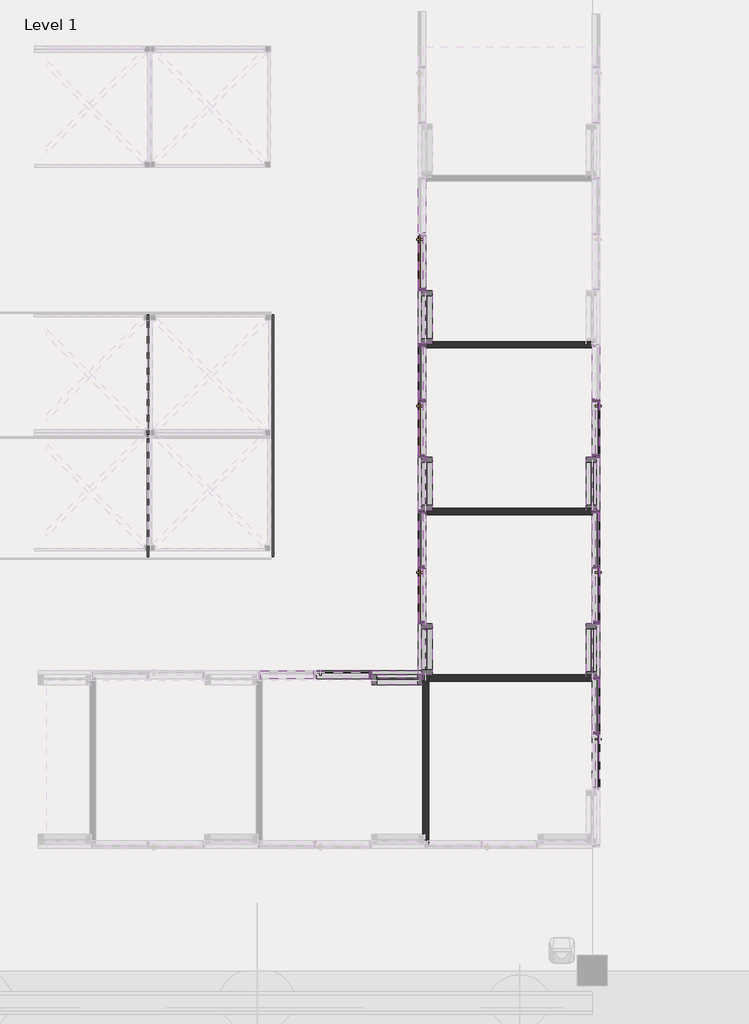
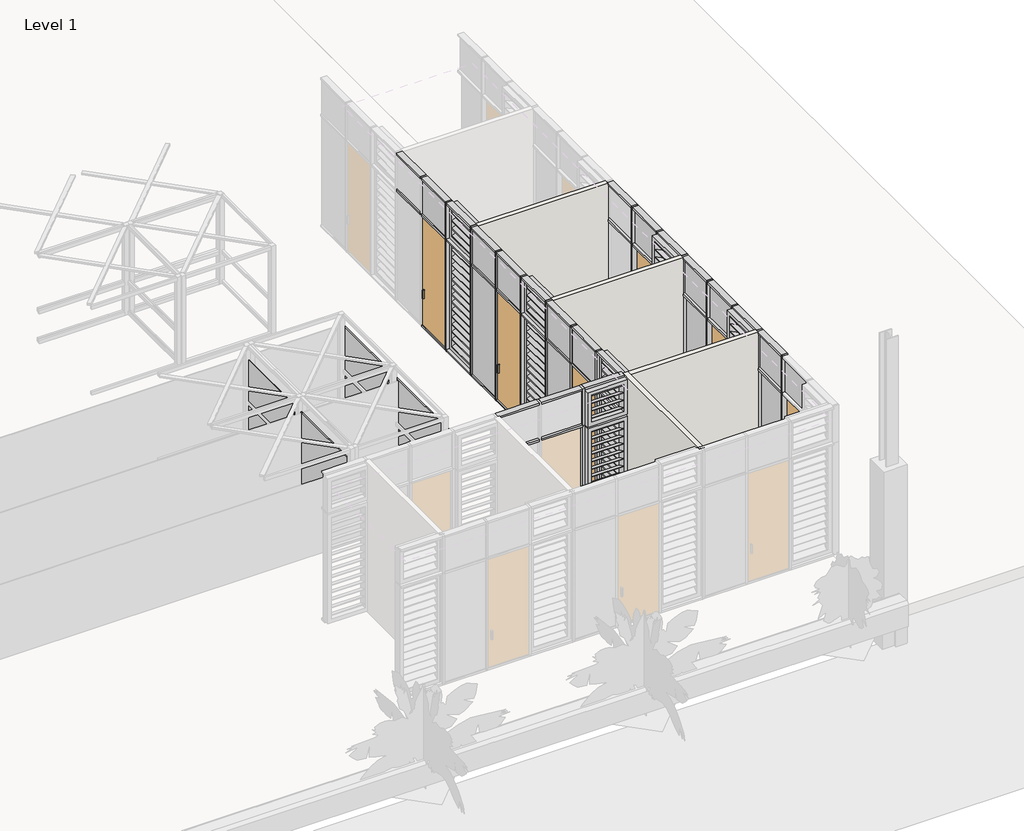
# One storey, part 8 of 32: 85 members, 28 plates, 6 doors, 4 walls.
"""IFC4 building model written with IfcOpenShell, lengths in millimetres."""

from ifc_helpers import new_model, si_unit, frame, origin, place, context, project, spatial, polyline, outline, extrude, faceted_brep, transform, mapped, element, save
from components import curtain_wall_door_single_glass_nz_curtain_wall_door_single_2bf20aac, curtain_wall_door_single_glass_nz_curtain_wall_door_single_ff8afd41, rectangular_mullion_50x150mm_c4504768, rectangular_mullion_50x150mm_6c7cb899, rectangular_mullion_50x150mm_b0af8bb0, rectangular_mullion_50x150mm_bbc1c4ea, rectangular_mullion_50x150mm_1a36453b, rectangular_mullion_50x150mm_0d540e17, rectangular_mullion_50x150mm_108cdc6f, rectangular_mullion_50x150mm_375c3673, rectangular_mullion_50x150mm_9239b3be, curtain_wall_panel_louver_20805_curtain_wall_panel_louver_4af505d4, curtain_wall_panel_louver_20805_curtain_wall_panel_louver_14332c5b, curtain_wall_panel_louver_20805_curtain_wall_panel_louver_d3fb298f, curtain_wall_panel_louver_20805_curtain_wall_panel_louver_ac1eef51, curtain_wall_panel_glass_louver_20805_curtain_wall_panel_036772b2, curtain_wall_panel_glass_louver_20805_curtain_wall_panel_0f8e40a1, curtain_wall_panel_glass_louver_20805_curtain_wall_panel_1d079b44, curtain_wall_panel_glass_louver_20805_curtain_wall_panel_de26d37e, system_panel_glazed_3e853062, system_panel_glazed_29269e8f, system_panel_glazed_a5e8ce8b, system_panel_glazed_53fe5bbb, system_panel_solid_585523e5, system_panel_solid_10c0fb46

model = new_model("IFC4")

# Units and contexts
model_context = context("Model", 3, world=origin())
ifc_project = project(units=[si_unit("LENGTHUNIT", "METRE", prefix="MILLI")], contexts=[model_context])

# Site, building, storey
site = spatial("IfcSite", under=ifc_project)
building = spatial("IfcBuilding", under=site)
storey = spatial("IfcBuildingStorey", under=building, Name="Level 1", Elevation=2800.0)

# Doors
placement = place(None, origin())
curtain_wall_door_single_glass_nz_curtain_wall_door_single_shape = curtain_wall_door_single_glass_nz_curtain_wall_door_single_2bf20aac(model_context)
element("IfcDoor", 1, ObjectType="Curtain Wall Door-Single-Glass (NZ) : Curtain Wall Door-Single-Glass (NZ)", at=placement, inside=storey, context=model_context, shape_type="MappedRepresentation", body=[
    mapped(curtain_wall_door_single_glass_nz_curtain_wall_door_single_shape, transform((-55155.3056755, -25055.9199597, 2850.0), x_axis=(0.0, -1.0, 0.0), y_axis=(1.0, 0.0, 0.0), z_axis=(0.0, 0.0, 1.0))),
])
element("IfcDoor", 2, ObjectType="Curtain Wall Door-Single-Glass (NZ) : Curtain Wall Door-Single-Glass (NZ)", at=placement, inside=storey, context=model_context, shape_type="MappedRepresentation", body=[
    mapped(curtain_wall_door_single_glass_nz_curtain_wall_door_single_shape, transform((-55155.3056755, -28355.9199596, 2850.0), x_axis=(0.0, -1.0, 0.0), y_axis=(1.0, 0.0, 0.0), z_axis=(0.0, 0.0, 1.0))),
])
element("IfcDoor", 3, ObjectType="Curtain Wall Door-Single-Glass (NZ) : Curtain Wall Door-Single-Glass (NZ)", at=placement, inside=storey, context=model_context, shape_type="MappedRepresentation", body=[
    mapped(curtain_wall_door_single_glass_nz_curtain_wall_door_single_shape, transform((-55155.3056755, -31655.9199597, 2850.0), x_axis=(0.0, -1.0, 0.0), y_axis=(1.0, 0.0, 0.0), z_axis=(0.0, 0.0, 1.0))),
])
curtain_wall_door_single_glass_nz_curtain_wall_door_single_2_shape = curtain_wall_door_single_glass_nz_curtain_wall_door_single_ff8afd41(model_context)
element("IfcDoor", 4, ObjectType="Curtain Wall Door-Single-Glass (NZ) : Curtain Wall Door-Single-Glass (NZ)", at=placement, inside=storey, context=model_context, shape_type="MappedRepresentation", body=[
    mapped(curtain_wall_door_single_glass_nz_curtain_wall_door_single_2_shape, transform((-58605.3056755, -25055.9199597, 2850.0), x_axis=(0.0, -1.0, 0.0), y_axis=(1.0, 0.0, 0.0), z_axis=(0.0, 0.0, 1.0))),
])
element("IfcDoor", 5, ObjectType="Curtain Wall Door-Single-Glass (NZ) : Curtain Wall Door-Single-Glass (NZ)", at=placement, inside=storey, context=model_context, shape_type="MappedRepresentation", body=[
    mapped(curtain_wall_door_single_glass_nz_curtain_wall_door_single_2_shape, transform((-58605.3056755, -21755.9199596, 2850.0), x_axis=(0.0, -1.0, 0.0), y_axis=(1.0, 0.0, 0.0), z_axis=(0.0, 0.0, 1.0))),
])
element("IfcDoor", 6, ObjectType="Curtain Wall Door-Single-Glass (NZ) : Curtain Wall Door-Single-Glass (NZ)", at=placement, inside=storey, context=model_context, shape_type="MappedRepresentation", body=[
    mapped(curtain_wall_door_single_glass_nz_curtain_wall_door_single_2_shape, transform((-58605.3056755, -28355.9199596, 2850.0), x_axis=(0.0, -1.0, 0.0), y_axis=(1.0, 0.0, 0.0), z_axis=(0.0, 0.0, 1.0))),
])

# Members
rectangular_mullion_50x150mm_shape = rectangular_mullion_50x150mm_c4504768(model_context)
element("IfcMember", 7, ObjectType="Rectangular Mullion : 50x150mm", at=placement, inside=storey, context=model_context, shape_type="MappedRepresentation", body=[
    mapped(rectangular_mullion_50x150mm_shape, transform((-60755.3056755, -29943.4199596, 5800.0), x_axis=(0.0, 0.0, 1.0), y_axis=(0.0, -1.0, 0.0), z_axis=(1.0, 0.0, 0.0))),
])
element("IfcMember", 8, ObjectType="Rectangular Mullion : 50x150mm", at=placement, inside=storey, context=model_context, shape_type="MappedRepresentation", body=[
    mapped(rectangular_mullion_50x150mm_shape, transform((-59655.3056756, -29943.4199596, 5800.0), x_axis=(0.0, 0.0, 1.0), y_axis=(0.0, -1.0, 0.0), z_axis=(1.0, 0.0, 0.0))),
])
element("IfcMember", 9, ObjectType="Rectangular Mullion : 50x150mm", at=placement, inside=storey, context=model_context, shape_type="MappedRepresentation", body=[
    mapped(rectangular_mullion_50x150mm_shape, transform((-55155.3056755, -24480.9199597, 5800.0), x_axis=(0.0, 0.0, 1.0), y_axis=(-1.0, 0.0, 0.0), z_axis=(0.0, -1.0, 0.0))),
])
element("IfcMember", 10, ObjectType="Rectangular Mullion : 50x150mm", at=placement, inside=storey, context=model_context, shape_type="MappedRepresentation", body=[
    mapped(rectangular_mullion_50x150mm_shape, transform((-55155.3056755, -29980.9199596, 5800.0), x_axis=(0.0, 0.0, 1.0), y_axis=(-1.0, 0.0, 0.0), z_axis=(0.0, -1.0, 0.0))),
])
element("IfcMember", 11, ObjectType="Rectangular Mullion : 50x150mm", at=placement, inside=storey, context=model_context, shape_type="MappedRepresentation", body=[
    mapped(rectangular_mullion_50x150mm_shape, transform((-55155.3056755, -27780.9199596, 5800.0), x_axis=(0.0, 0.0, 1.0), y_axis=(-1.0, 0.0, 0.0), z_axis=(0.0, -1.0, 0.0))),
])
element("IfcMember", 12, ObjectType="Rectangular Mullion : 50x150mm", at=placement, inside=storey, context=model_context, shape_type="MappedRepresentation", body=[
    mapped(rectangular_mullion_50x150mm_shape, transform((-55155.3056755, -26680.9199596, 5800.0), x_axis=(0.0, 0.0, 1.0), y_axis=(-1.0, 0.0, 0.0), z_axis=(0.0, -1.0, 0.0))),
])
element("IfcMember", 13, ObjectType="Rectangular Mullion : 50x150mm", at=placement, inside=storey, context=model_context, shape_type="MappedRepresentation", body=[
    mapped(rectangular_mullion_50x150mm_shape, transform((-55155.3056755, -25580.9199596, 5800.0), x_axis=(0.0, 0.0, 1.0), y_axis=(-1.0, 0.0, 0.0), z_axis=(0.0, -1.0, 0.0))),
])
element("IfcMember", 14, ObjectType="Rectangular Mullion : 50x150mm", at=placement, inside=storey, context=model_context, shape_type="MappedRepresentation", body=[
    mapped(rectangular_mullion_50x150mm_shape, transform((-55155.3056755, -28880.9199596, 5800.0), x_axis=(0.0, 0.0, 1.0), y_axis=(-1.0, 0.0, 0.0), z_axis=(0.0, -1.0, 0.0))),
])
rectangular_mullion_50x150mm_2_shape = rectangular_mullion_50x150mm_6c7cb899(model_context)
element("IfcMember", 15, ObjectType="Rectangular Mullion : 50x150mm", at=placement, inside=storey, context=model_context, shape_type="MappedRepresentation", body=[
    mapped(rectangular_mullion_50x150mm_2_shape, transform((-59630.3056756, -29943.4199596, 2800.0), x_axis=(1.0, 0.0, 0.0), y_axis=(0.0, -1.0, 0.0), z_axis=(0.0, 0.0, -1.0))),
])
element("IfcMember", 16, ObjectType="Rectangular Mullion : 50x150mm", at=placement, inside=storey, context=model_context, shape_type="MappedRepresentation", body=[
    mapped(rectangular_mullion_50x150mm_2_shape, transform((-55155.3056755, -24505.9199597, 2800.0), x_axis=(0.0, -1.0, 0.0), y_axis=(-1.0, 0.0, 0.0), z_axis=(0.0, 0.0, -1.0))),
])
element("IfcMember", 17, ObjectType="Rectangular Mullion : 50x150mm", at=placement, inside=storey, context=model_context, shape_type="MappedRepresentation", body=[
    mapped(rectangular_mullion_50x150mm_2_shape, transform((-55155.3056755, -25605.9199596, 2800.0), x_axis=(0.0, -1.0, 0.0), y_axis=(-1.0, 0.0, 0.0), z_axis=(0.0, 0.0, -1.0))),
])
element("IfcMember", 18, ObjectType="Rectangular Mullion : 50x150mm", at=placement, inside=storey, context=model_context, shape_type="MappedRepresentation", body=[
    mapped(rectangular_mullion_50x150mm_2_shape, transform((-55155.3056755, -26705.9199596, 2800.0), x_axis=(0.0, -1.0, 0.0), y_axis=(-1.0, 0.0, 0.0), z_axis=(0.0, 0.0, -1.0))),
])
element("IfcMember", 19, ObjectType="Rectangular Mullion : 50x150mm", at=placement, inside=storey, context=model_context, shape_type="MappedRepresentation", body=[
    mapped(rectangular_mullion_50x150mm_2_shape, transform((-55155.3056755, -27805.9199596, 2800.0), x_axis=(0.0, -1.0, 0.0), y_axis=(-1.0, 0.0, 0.0), z_axis=(0.0, 0.0, -1.0))),
])
element("IfcMember", 20, ObjectType="Rectangular Mullion : 50x150mm", at=placement, inside=storey, context=model_context, shape_type="MappedRepresentation", body=[
    mapped(rectangular_mullion_50x150mm_2_shape, transform((-55155.3056755, -28905.9199596, 2800.0), x_axis=(0.0, -1.0, 0.0), y_axis=(-1.0, 0.0, 0.0), z_axis=(0.0, 0.0, -1.0))),
])
rectangular_mullion_50x150mm_3_shape = rectangular_mullion_50x150mm_b0af8bb0(model_context)
element("IfcMember", 21, ObjectType="Rectangular Mullion : 50x150mm", at=placement, inside=storey, context=model_context, shape_type="MappedRepresentation", body=[
    mapped(rectangular_mullion_50x150mm_3_shape, transform((-60705.3056755, -29943.4199596, 2800.0), x_axis=(0.0, 0.0, -1.0), y_axis=(0.0, -1.0, 0.0), z_axis=(-1.0, 0.0, 0.0))),
])
element("IfcMember", 22, ObjectType="Rectangular Mullion : 50x150mm", at=placement, inside=storey, context=model_context, shape_type="MappedRepresentation", body=[
    mapped(rectangular_mullion_50x150mm_3_shape, transform((-55155.3056755, -28930.9199596, 2800.0), x_axis=(0.0, 0.0, -1.0), y_axis=(-1.0, 0.0, 0.0), z_axis=(0.0, 1.0, 0.0))),
])
element("IfcMember", 23, ObjectType="Rectangular Mullion : 50x150mm", at=placement, inside=storey, context=model_context, shape_type="MappedRepresentation", body=[
    mapped(rectangular_mullion_50x150mm_3_shape, transform((-55155.3056755, -26730.9199596, 2800.0), x_axis=(0.0, 0.0, -1.0), y_axis=(-1.0, 0.0, 0.0), z_axis=(0.0, 1.0, 0.0))),
])
element("IfcMember", 24, ObjectType="Rectangular Mullion : 50x150mm", at=placement, inside=storey, context=model_context, shape_type="MappedRepresentation", body=[
    mapped(rectangular_mullion_50x150mm_3_shape, transform((-55155.3056755, -25630.9199596, 2800.0), x_axis=(0.0, 0.0, -1.0), y_axis=(-1.0, 0.0, 0.0), z_axis=(0.0, 1.0, 0.0))),
])
element("IfcMember", 25, ObjectType="Rectangular Mullion : 50x150mm", at=placement, inside=storey, context=model_context, shape_type="MappedRepresentation", body=[
    mapped(rectangular_mullion_50x150mm_3_shape, transform((-55155.3056755, -24530.9199597, 2800.0), x_axis=(0.0, 0.0, -1.0), y_axis=(-1.0, 0.0, 0.0), z_axis=(0.0, 1.0, 0.0))),
])
element("IfcMember", 26, ObjectType="Rectangular Mullion : 50x150mm", at=placement, inside=storey, context=model_context, shape_type="MappedRepresentation", body=[
    mapped(rectangular_mullion_50x150mm_3_shape, transform((-55155.3056755, -27830.9199596, 2800.0), x_axis=(0.0, 0.0, -1.0), y_axis=(-1.0, 0.0, 0.0), z_axis=(0.0, 1.0, 0.0))),
])
rectangular_mullion_50x150mm_4_shape = rectangular_mullion_50x150mm_bbc1c4ea(model_context)
element("IfcMember", 27, ObjectType="Rectangular Mullion : 50x150mm", at=placement, inside=storey, context=model_context, shape_type="MappedRepresentation", body=[
    mapped(rectangular_mullion_50x150mm_4_shape, transform((-59630.3056756, -29943.4199596, 5800.0), x_axis=(1.0, 0.0, 0.0), y_axis=(0.0, -1.0, 0.0), z_axis=(0.0, 0.0, -1.0))),
])
element("IfcMember", 28, ObjectType="Rectangular Mullion : 50x150mm", at=placement, inside=storey, context=model_context, shape_type="MappedRepresentation", body=[
    mapped(rectangular_mullion_50x150mm_4_shape, transform((-55155.3056755, -24505.9199597, 5800.0), x_axis=(0.0, -1.0, 0.0), y_axis=(-1.0, 0.0, 0.0), z_axis=(0.0, 0.0, -1.0))),
])
element("IfcMember", 29, ObjectType="Rectangular Mullion : 50x150mm", at=placement, inside=storey, context=model_context, shape_type="MappedRepresentation", body=[
    mapped(rectangular_mullion_50x150mm_4_shape, transform((-55155.3056755, -25605.9199596, 5800.0), x_axis=(0.0, -1.0, 0.0), y_axis=(-1.0, 0.0, 0.0), z_axis=(0.0, 0.0, -1.0))),
])
element("IfcMember", 30, ObjectType="Rectangular Mullion : 50x150mm", at=placement, inside=storey, context=model_context, shape_type="MappedRepresentation", body=[
    mapped(rectangular_mullion_50x150mm_4_shape, transform((-55155.3056755, -26705.9199596, 5800.0), x_axis=(0.0, -1.0, 0.0), y_axis=(-1.0, 0.0, 0.0), z_axis=(0.0, 0.0, -1.0))),
])
element("IfcMember", 31, ObjectType="Rectangular Mullion : 50x150mm", at=placement, inside=storey, context=model_context, shape_type="MappedRepresentation", body=[
    mapped(rectangular_mullion_50x150mm_4_shape, transform((-55155.3056755, -27805.9199596, 5800.0), x_axis=(0.0, -1.0, 0.0), y_axis=(-1.0, 0.0, 0.0), z_axis=(0.0, 0.0, -1.0))),
])
element("IfcMember", 32, ObjectType="Rectangular Mullion : 50x150mm", at=placement, inside=storey, context=model_context, shape_type="MappedRepresentation", body=[
    mapped(rectangular_mullion_50x150mm_4_shape, transform((-55155.3056755, -28905.9199596, 5800.0), x_axis=(0.0, -1.0, 0.0), y_axis=(-1.0, 0.0, 0.0), z_axis=(0.0, 0.0, -1.0))),
])
rectangular_mullion_50x150mm_5_shape = rectangular_mullion_50x150mm_1a36453b(model_context)
element("IfcMember", 33, ObjectType="Rectangular Mullion : 50x150mm", at=placement, inside=storey, context=model_context, shape_type="MappedRepresentation", body=[
    mapped(rectangular_mullion_50x150mm_5_shape, transform((-59655.3056756, -29943.4199596, 6800.0), x_axis=(0.0, 0.0, 1.0), y_axis=(0.0, -1.0, 0.0), z_axis=(1.0, 0.0, 0.0))),
])
element("IfcMember", 34, ObjectType="Rectangular Mullion : 50x150mm", at=placement, inside=storey, context=model_context, shape_type="MappedRepresentation", body=[
    mapped(rectangular_mullion_50x150mm_5_shape, transform((-60755.3056755, -29943.4199596, 6800.0), x_axis=(0.0, 0.0, 1.0), y_axis=(0.0, -1.0, 0.0), z_axis=(1.0, 0.0, 0.0))),
])
element("IfcMember", 35, ObjectType="Rectangular Mullion : 50x150mm", at=placement, inside=storey, context=model_context, shape_type="MappedRepresentation", body=[
    mapped(rectangular_mullion_50x150mm_5_shape, transform((-55155.3056755, -28880.9199596, 6800.0), x_axis=(0.0, 0.0, 1.0), y_axis=(-1.0, 0.0, 0.0), z_axis=(0.0, -1.0, 0.0))),
])
element("IfcMember", 36, ObjectType="Rectangular Mullion : 50x150mm", at=placement, inside=storey, context=model_context, shape_type="MappedRepresentation", body=[
    mapped(rectangular_mullion_50x150mm_5_shape, transform((-55155.3056755, -26680.9199596, 6800.0), x_axis=(0.0, 0.0, 1.0), y_axis=(-1.0, 0.0, 0.0), z_axis=(0.0, -1.0, 0.0))),
])
element("IfcMember", 37, ObjectType="Rectangular Mullion : 50x150mm", at=placement, inside=storey, context=model_context, shape_type="MappedRepresentation", body=[
    mapped(rectangular_mullion_50x150mm_5_shape, transform((-55155.3056755, -25580.9199596, 6800.0), x_axis=(0.0, 0.0, 1.0), y_axis=(-1.0, 0.0, 0.0), z_axis=(0.0, -1.0, 0.0))),
])
element("IfcMember", 38, ObjectType="Rectangular Mullion : 50x150mm", at=placement, inside=storey, context=model_context, shape_type="MappedRepresentation", body=[
    mapped(rectangular_mullion_50x150mm_5_shape, transform((-55155.3056755, -24480.9199597, 6800.0), x_axis=(0.0, 0.0, 1.0), y_axis=(-1.0, 0.0, 0.0), z_axis=(0.0, -1.0, 0.0))),
])
element("IfcMember", 39, ObjectType="Rectangular Mullion : 50x150mm", at=placement, inside=storey, context=model_context, shape_type="MappedRepresentation", body=[
    mapped(rectangular_mullion_50x150mm_5_shape, transform((-55155.3056755, -27780.9199596, 6800.0), x_axis=(0.0, 0.0, 1.0), y_axis=(-1.0, 0.0, 0.0), z_axis=(0.0, -1.0, 0.0))),
])
element("IfcMember", 40, ObjectType="Rectangular Mullion : 50x150mm", at=placement, inside=storey, context=model_context, shape_type="MappedRepresentation", body=[
    mapped(rectangular_mullion_50x150mm_4_shape, transform((-58605.3056755, -24505.9199597, 5800.0), x_axis=(0.0, -1.0, 0.0), y_axis=(-1.0, 0.0, 0.0), z_axis=(0.0, 0.0, -1.0))),
])
element("IfcMember", 41, ObjectType="Rectangular Mullion : 50x150mm", at=placement, inside=storey, context=model_context, shape_type="MappedRepresentation", body=[
    mapped(rectangular_mullion_50x150mm_4_shape, transform((-58605.3056755, -25605.9199596, 5800.0), x_axis=(0.0, -1.0, 0.0), y_axis=(-1.0, 0.0, 0.0), z_axis=(0.0, 0.0, -1.0))),
])
element("IfcMember", 42, ObjectType="Rectangular Mullion : 50x150mm", at=placement, inside=storey, context=model_context, shape_type="MappedRepresentation", body=[
    mapped(rectangular_mullion_50x150mm_4_shape, transform((-58605.3056755, -23405.9199596, 5800.0), x_axis=(0.0, -1.0, 0.0), y_axis=(-1.0, 0.0, 0.0), z_axis=(0.0, 0.0, -1.0))),
])
element("IfcMember", 43, ObjectType="Rectangular Mullion : 50x150mm", at=placement, inside=storey, context=model_context, shape_type="MappedRepresentation", body=[
    mapped(rectangular_mullion_50x150mm_4_shape, transform((-58605.3056755, -26705.9199596, 5800.0), x_axis=(0.0, -1.0, 0.0), y_axis=(-1.0, 0.0, 0.0), z_axis=(0.0, 0.0, -1.0))),
])
element("IfcMember", 44, ObjectType="Rectangular Mullion : 50x150mm", at=placement, inside=storey, context=model_context, shape_type="MappedRepresentation", body=[
    mapped(rectangular_mullion_50x150mm_4_shape, transform((-58605.3056755, -22305.9199596, 5800.0), x_axis=(0.0, -1.0, 0.0), y_axis=(-1.0, 0.0, 0.0), z_axis=(0.0, 0.0, -1.0))),
])
element("IfcMember", 45, ObjectType="Rectangular Mullion : 50x150mm", at=placement, inside=storey, context=model_context, shape_type="MappedRepresentation", body=[
    mapped(rectangular_mullion_50x150mm_4_shape, transform((-58605.3056755, -27805.9199596, 5800.0), x_axis=(0.0, -1.0, 0.0), y_axis=(-1.0, 0.0, 0.0), z_axis=(0.0, 0.0, -1.0))),
])
element("IfcMember", 46, ObjectType="Rectangular Mullion : 50x150mm", at=placement, inside=storey, context=model_context, shape_type="MappedRepresentation", body=[
    mapped(rectangular_mullion_50x150mm_4_shape, transform((-58605.3056755, -28905.9199596, 5800.0), x_axis=(0.0, -1.0, 0.0), y_axis=(-1.0, 0.0, 0.0), z_axis=(0.0, 0.0, -1.0))),
])
element("IfcMember", 47, ObjectType="Rectangular Mullion : 50x150mm", at=placement, inside=storey, context=model_context, shape_type="MappedRepresentation", body=[
    mapped(rectangular_mullion_50x150mm_2_shape, transform((-58605.3056755, -24505.9199597, 2800.0), x_axis=(0.0, -1.0, 0.0), y_axis=(-1.0, 0.0, 0.0), z_axis=(0.0, 0.0, -1.0))),
])
element("IfcMember", 48, ObjectType="Rectangular Mullion : 50x150mm", at=placement, inside=storey, context=model_context, shape_type="MappedRepresentation", body=[
    mapped(rectangular_mullion_50x150mm_2_shape, transform((-58605.3056755, -25605.9199596, 2800.0), x_axis=(0.0, -1.0, 0.0), y_axis=(-1.0, 0.0, 0.0), z_axis=(0.0, 0.0, -1.0))),
])
element("IfcMember", 49, ObjectType="Rectangular Mullion : 50x150mm", at=placement, inside=storey, context=model_context, shape_type="MappedRepresentation", body=[
    mapped(rectangular_mullion_50x150mm_2_shape, transform((-58605.3056755, -23405.9199596, 2800.0), x_axis=(0.0, -1.0, 0.0), y_axis=(-1.0, 0.0, 0.0), z_axis=(0.0, 0.0, -1.0))),
])
element("IfcMember", 50, ObjectType="Rectangular Mullion : 50x150mm", at=placement, inside=storey, context=model_context, shape_type="MappedRepresentation", body=[
    mapped(rectangular_mullion_50x150mm_2_shape, transform((-58605.3056755, -26705.9199596, 2800.0), x_axis=(0.0, -1.0, 0.0), y_axis=(-1.0, 0.0, 0.0), z_axis=(0.0, 0.0, -1.0))),
])
element("IfcMember", 51, ObjectType="Rectangular Mullion : 50x150mm", at=placement, inside=storey, context=model_context, shape_type="MappedRepresentation", body=[
    mapped(rectangular_mullion_50x150mm_2_shape, transform((-58605.3056755, -22305.9199596, 2800.0), x_axis=(0.0, -1.0, 0.0), y_axis=(-1.0, 0.0, 0.0), z_axis=(0.0, 0.0, -1.0))),
])
element("IfcMember", 52, ObjectType="Rectangular Mullion : 50x150mm", at=placement, inside=storey, context=model_context, shape_type="MappedRepresentation", body=[
    mapped(rectangular_mullion_50x150mm_2_shape, transform((-58605.3056755, -27805.9199596, 2800.0), x_axis=(0.0, -1.0, 0.0), y_axis=(-1.0, 0.0, 0.0), z_axis=(0.0, 0.0, -1.0))),
])
element("IfcMember", 53, ObjectType="Rectangular Mullion : 50x150mm", at=placement, inside=storey, context=model_context, shape_type="MappedRepresentation", body=[
    mapped(rectangular_mullion_50x150mm_2_shape, transform((-58605.3056755, -28905.9199596, 2800.0), x_axis=(0.0, -1.0, 0.0), y_axis=(-1.0, 0.0, 0.0), z_axis=(0.0, 0.0, -1.0))),
])
rectangular_mullion_50x150mm_6_shape = rectangular_mullion_50x150mm_0d540e17(model_context)
element("IfcMember", 54, ObjectType="Rectangular Mullion : 50x150mm", at=placement, inside=storey, context=model_context, shape_type="MappedRepresentation", body=[
    mapped(rectangular_mullion_50x150mm_6_shape, transform((-58605.3056755, -24480.9199597, 5800.0), x_axis=(0.0, 0.0, 1.0), y_axis=(-1.0, 0.0, 0.0), z_axis=(0.0, -1.0, 0.0))),
])
element("IfcMember", 55, ObjectType="Rectangular Mullion : 50x150mm", at=placement, inside=storey, context=model_context, shape_type="MappedRepresentation", body=[
    mapped(rectangular_mullion_50x150mm_6_shape, transform((-58605.3056755, -27780.9199596, 5800.0), x_axis=(0.0, 0.0, 1.0), y_axis=(-1.0, 0.0, 0.0), z_axis=(0.0, -1.0, 0.0))),
])
element("IfcMember", 56, ObjectType="Rectangular Mullion : 50x150mm", at=placement, inside=storey, context=model_context, shape_type="MappedRepresentation", body=[
    mapped(rectangular_mullion_50x150mm_6_shape, transform((-58605.3056755, -26680.9199596, 5800.0), x_axis=(0.0, 0.0, 1.0), y_axis=(-1.0, 0.0, 0.0), z_axis=(0.0, -1.0, 0.0))),
])
element("IfcMember", 57, ObjectType="Rectangular Mullion : 50x150mm", at=placement, inside=storey, context=model_context, shape_type="MappedRepresentation", body=[
    mapped(rectangular_mullion_50x150mm_6_shape, transform((-58605.3056755, -25580.9199596, 5800.0), x_axis=(0.0, 0.0, 1.0), y_axis=(-1.0, 0.0, 0.0), z_axis=(0.0, -1.0, 0.0))),
])
element("IfcMember", 58, ObjectType="Rectangular Mullion : 50x150mm", at=placement, inside=storey, context=model_context, shape_type="MappedRepresentation", body=[
    mapped(rectangular_mullion_50x150mm_6_shape, transform((-58605.3056755, -23380.9199596, 5800.0), x_axis=(0.0, 0.0, 1.0), y_axis=(-1.0, 0.0, 0.0), z_axis=(0.0, -1.0, 0.0))),
])
element("IfcMember", 59, ObjectType="Rectangular Mullion : 50x150mm", at=placement, inside=storey, context=model_context, shape_type="MappedRepresentation", body=[
    mapped(rectangular_mullion_50x150mm_6_shape, transform((-58605.3056755, -22280.9199596, 5800.0), x_axis=(0.0, 0.0, 1.0), y_axis=(-1.0, 0.0, 0.0), z_axis=(0.0, -1.0, 0.0))),
])
element("IfcMember", 60, ObjectType="Rectangular Mullion : 50x150mm", at=placement, inside=storey, context=model_context, shape_type="MappedRepresentation", body=[
    mapped(rectangular_mullion_50x150mm_6_shape, transform((-58605.3056755, -21180.9199596, 5800.0), x_axis=(0.0, 0.0, 1.0), y_axis=(-1.0, 0.0, 0.0), z_axis=(0.0, -1.0, 0.0))),
])
element("IfcMember", 61, ObjectType="Rectangular Mullion : 50x150mm", at=placement, inside=storey, context=model_context, shape_type="MappedRepresentation", body=[
    mapped(rectangular_mullion_50x150mm_6_shape, transform((-58605.3056755, -28880.9199596, 5800.0), x_axis=(0.0, 0.0, 1.0), y_axis=(-1.0, 0.0, 0.0), z_axis=(0.0, -1.0, 0.0))),
])
rectangular_mullion_50x150mm_7_shape = rectangular_mullion_50x150mm_108cdc6f(model_context)
element("IfcMember", 62, ObjectType="Rectangular Mullion : 50x150mm", at=placement, inside=storey, context=model_context, shape_type="MappedRepresentation", body=[
    mapped(rectangular_mullion_50x150mm_7_shape, transform((-58605.3056755, -23430.9199596, 2800.0), x_axis=(0.0, 0.0, -1.0), y_axis=(-1.0, 0.0, 0.0), z_axis=(0.0, 1.0, 0.0))),
])
element("IfcMember", 63, ObjectType="Rectangular Mullion : 50x150mm", at=placement, inside=storey, context=model_context, shape_type="MappedRepresentation", body=[
    mapped(rectangular_mullion_50x150mm_7_shape, transform((-58605.3056755, -26730.9199596, 2800.0), x_axis=(0.0, 0.0, -1.0), y_axis=(-1.0, 0.0, 0.0), z_axis=(0.0, 1.0, 0.0))),
])
element("IfcMember", 64, ObjectType="Rectangular Mullion : 50x150mm", at=placement, inside=storey, context=model_context, shape_type="MappedRepresentation", body=[
    mapped(rectangular_mullion_50x150mm_7_shape, transform((-58605.3056755, -25630.9199596, 2800.0), x_axis=(0.0, 0.0, -1.0), y_axis=(-1.0, 0.0, 0.0), z_axis=(0.0, 1.0, 0.0))),
])
element("IfcMember", 65, ObjectType="Rectangular Mullion : 50x150mm", at=placement, inside=storey, context=model_context, shape_type="MappedRepresentation", body=[
    mapped(rectangular_mullion_50x150mm_7_shape, transform((-58605.3056755, -24530.9199597, 2800.0), x_axis=(0.0, 0.0, -1.0), y_axis=(-1.0, 0.0, 0.0), z_axis=(0.0, 1.0, 0.0))),
])
element("IfcMember", 66, ObjectType="Rectangular Mullion : 50x150mm", at=placement, inside=storey, context=model_context, shape_type="MappedRepresentation", body=[
    mapped(rectangular_mullion_50x150mm_7_shape, transform((-58605.3056755, -22330.9199596, 2800.0), x_axis=(0.0, 0.0, -1.0), y_axis=(-1.0, 0.0, 0.0), z_axis=(0.0, 1.0, 0.0))),
])
element("IfcMember", 67, ObjectType="Rectangular Mullion : 50x150mm", at=placement, inside=storey, context=model_context, shape_type="MappedRepresentation", body=[
    mapped(rectangular_mullion_50x150mm_7_shape, transform((-58605.3056755, -21230.9199596, 2800.0), x_axis=(0.0, 0.0, -1.0), y_axis=(-1.0, 0.0, 0.0), z_axis=(0.0, 1.0, 0.0))),
])
element("IfcMember", 68, ObjectType="Rectangular Mullion : 50x150mm", at=placement, inside=storey, context=model_context, shape_type="MappedRepresentation", body=[
    mapped(rectangular_mullion_50x150mm_7_shape, transform((-58605.3056755, -27830.9199596, 2800.0), x_axis=(0.0, 0.0, -1.0), y_axis=(-1.0, 0.0, 0.0), z_axis=(0.0, 1.0, 0.0))),
])
element("IfcMember", 69, ObjectType="Rectangular Mullion : 50x150mm", at=placement, inside=storey, context=model_context, shape_type="MappedRepresentation", body=[
    mapped(rectangular_mullion_50x150mm_5_shape, transform((-58605.3056755, -23380.9199596, 6800.0), x_axis=(0.0, 0.0, 1.0), y_axis=(-1.0, 0.0, 0.0), z_axis=(0.0, -1.0, 0.0))),
])
element("IfcMember", 70, ObjectType="Rectangular Mullion : 50x150mm", at=placement, inside=storey, context=model_context, shape_type="MappedRepresentation", body=[
    mapped(rectangular_mullion_50x150mm_5_shape, transform((-58605.3056755, -28880.9199596, 6800.0), x_axis=(0.0, 0.0, 1.0), y_axis=(-1.0, 0.0, 0.0), z_axis=(0.0, -1.0, 0.0))),
])
element("IfcMember", 71, ObjectType="Rectangular Mullion : 50x150mm", at=placement, inside=storey, context=model_context, shape_type="MappedRepresentation", body=[
    mapped(rectangular_mullion_50x150mm_5_shape, transform((-58605.3056755, -26680.9199596, 6800.0), x_axis=(0.0, 0.0, 1.0), y_axis=(-1.0, 0.0, 0.0), z_axis=(0.0, -1.0, 0.0))),
])
element("IfcMember", 72, ObjectType="Rectangular Mullion : 50x150mm", at=placement, inside=storey, context=model_context, shape_type="MappedRepresentation", body=[
    mapped(rectangular_mullion_50x150mm_5_shape, transform((-58605.3056755, -25580.9199596, 6800.0), x_axis=(0.0, 0.0, 1.0), y_axis=(-1.0, 0.0, 0.0), z_axis=(0.0, -1.0, 0.0))),
])
element("IfcMember", 73, ObjectType="Rectangular Mullion : 50x150mm", at=placement, inside=storey, context=model_context, shape_type="MappedRepresentation", body=[
    mapped(rectangular_mullion_50x150mm_5_shape, transform((-58605.3056755, -24480.9199597, 6800.0), x_axis=(0.0, 0.0, 1.0), y_axis=(-1.0, 0.0, 0.0), z_axis=(0.0, -1.0, 0.0))),
])
element("IfcMember", 74, ObjectType="Rectangular Mullion : 50x150mm", at=placement, inside=storey, context=model_context, shape_type="MappedRepresentation", body=[
    mapped(rectangular_mullion_50x150mm_5_shape, transform((-58605.3056755, -22280.9199596, 6800.0), x_axis=(0.0, 0.0, 1.0), y_axis=(-1.0, 0.0, 0.0), z_axis=(0.0, -1.0, 0.0))),
])
element("IfcMember", 75, ObjectType="Rectangular Mullion : 50x150mm", at=placement, inside=storey, context=model_context, shape_type="MappedRepresentation", body=[
    mapped(rectangular_mullion_50x150mm_5_shape, transform((-58605.3056755, -21180.9199596, 6800.0), x_axis=(0.0, 0.0, 1.0), y_axis=(-1.0, 0.0, 0.0), z_axis=(0.0, -1.0, 0.0))),
])
element("IfcMember", 76, ObjectType="Rectangular Mullion : 50x150mm", at=placement, inside=storey, context=model_context, shape_type="MappedRepresentation", body=[
    mapped(rectangular_mullion_50x150mm_5_shape, transform((-58605.3056755, -27780.9199596, 6800.0), x_axis=(0.0, 0.0, 1.0), y_axis=(-1.0, 0.0, 0.0), z_axis=(0.0, -1.0, 0.0))),
])
rectangular_mullion_50x150mm_8_shape = rectangular_mullion_50x150mm_375c3673(model_context)
element("IfcMember", 77, ObjectType="Rectangular Mullion : 50x150mm", at=placement, inside=storey, context=model_context, shape_type="MappedRepresentation", body=[
    mapped(rectangular_mullion_50x150mm_8_shape, transform((-58605.3056755, -29943.4199596, 5800.0), x_axis=(0.0, 0.0, 1.0), y_axis=(-1.0, 0.0, 0.0), z_axis=(0.0, -1.0, 0.0))),
])
rectangular_mullion_50x150mm_9_shape = rectangular_mullion_50x150mm_9239b3be(model_context)
element("IfcMember", 78, ObjectType="Rectangular Mullion : 50x150mm", at=placement, inside=storey, context=model_context, shape_type="MappedRepresentation", body=[
    mapped(rectangular_mullion_50x150mm_9_shape, transform((-58605.3056755, -28930.9199596, 2800.0), x_axis=(0.0, 0.0, -1.0), y_axis=(-1.0, 0.0, 0.0), z_axis=(0.0, 1.0, 0.0))),
])
element("IfcMember", 79, ObjectType="Rectangular Mullion : 50x150mm", at=placement, inside=storey, context=model_context, shape_type="MappedRepresentation", body=[
    mapped(rectangular_mullion_50x150mm_9_shape, transform((-58605.3056755, -29943.4199596, 6800.0), x_axis=(0.0, 0.0, 1.0), y_axis=(-1.0, 0.0, 0.0), z_axis=(0.0, -1.0, 0.0))),
])
element("IfcMember", 80, ObjectType="Rectangular Mullion : 50x150mm", at=placement, inside=storey, context=model_context, shape_type="MappedRepresentation", body=[
    mapped(rectangular_mullion_50x150mm_8_shape, transform((-58592.8056755, -29943.4199596, 5800.0), x_axis=(0.0, 0.0, 1.0), y_axis=(0.0, -1.0, 0.0), z_axis=(1.0, 0.0, 0.0))),
])
element("IfcMember", 81, ObjectType="Rectangular Mullion : 50x150mm", at=placement, inside=storey, context=model_context, shape_type="MappedRepresentation", body=[
    mapped(rectangular_mullion_50x150mm_9_shape, transform((-59605.3056756, -29943.4199596, 2800.0), x_axis=(0.0, 0.0, -1.0), y_axis=(0.0, -1.0, 0.0), z_axis=(-1.0, 0.0, 0.0))),
])
element("IfcMember", 82, ObjectType="Rectangular Mullion : 50x150mm", at=placement, inside=storey, context=model_context, shape_type="MappedRepresentation", body=[
    mapped(rectangular_mullion_50x150mm_9_shape, transform((-58592.8056755, -29943.4199596, 6800.0), x_axis=(0.0, 0.0, 1.0), y_axis=(0.0, -1.0, 0.0), z_axis=(1.0, 0.0, 0.0))),
])
element("IfcMember", 83, ObjectType="Rectangular Mullion : 50x150mm", at=placement, inside=storey, context=model_context, shape_type="MappedRepresentation", body=[
    mapped(rectangular_mullion_50x150mm_6_shape, transform((-55155.3056755, -31080.9199597, 5800.0), x_axis=(0.0, 0.0, 1.0), y_axis=(-1.0, 0.0, 0.0), z_axis=(0.0, -1.0, 0.0))),
])
element("IfcMember", 84, ObjectType="Rectangular Mullion : 50x150mm", at=placement, inside=storey, context=model_context, shape_type="MappedRepresentation", body=[
    mapped(rectangular_mullion_50x150mm_7_shape, transform((-55155.3056755, -30030.9199596, 2800.0), x_axis=(0.0, 0.0, -1.0), y_axis=(-1.0, 0.0, 0.0), z_axis=(0.0, 1.0, 0.0))),
])
element("IfcMember", 85, ObjectType="Rectangular Mullion : 50x150mm", at=placement, inside=storey, context=model_context, shape_type="MappedRepresentation", body=[
    mapped(rectangular_mullion_50x150mm_7_shape, transform((-55155.3056755, -31130.9199597, 2800.0), x_axis=(0.0, 0.0, -1.0), y_axis=(-1.0, 0.0, 0.0), z_axis=(0.0, 1.0, 0.0))),
])
element("IfcMember", 86, ObjectType="Rectangular Mullion : 50x150mm", at=placement, inside=storey, context=model_context, shape_type="MappedRepresentation", body=[
    mapped(rectangular_mullion_50x150mm_5_shape, transform((-55155.3056755, -29980.9199596, 6800.0), x_axis=(0.0, 0.0, 1.0), y_axis=(-1.0, 0.0, 0.0), z_axis=(0.0, -1.0, 0.0))),
])
element("IfcMember", 87, ObjectType="Rectangular Mullion : 50x150mm", at=placement, inside=storey, context=model_context, shape_type="MappedRepresentation", body=[
    mapped(rectangular_mullion_50x150mm_5_shape, transform((-55155.3056755, -31080.9199597, 6800.0), x_axis=(0.0, 0.0, 1.0), y_axis=(-1.0, 0.0, 0.0), z_axis=(0.0, -1.0, 0.0))),
])
element("IfcMember", 88, ObjectType="Rectangular Mullion : 50x150mm", at=placement, inside=storey, context=model_context, shape_type="MappedRepresentation", body=[
    mapped(rectangular_mullion_50x150mm_4_shape, transform((-55155.3056755, -30005.9199596, 5800.0), x_axis=(0.0, -1.0, 0.0), y_axis=(-1.0, 0.0, 0.0), z_axis=(0.0, 0.0, -1.0))),
])
element("IfcMember", 89, ObjectType="Rectangular Mullion : 50x150mm", at=placement, inside=storey, context=model_context, shape_type="MappedRepresentation", body=[
    mapped(rectangular_mullion_50x150mm_4_shape, transform((-55155.3056755, -31105.9199597, 5800.0), x_axis=(0.0, -1.0, 0.0), y_axis=(-1.0, 0.0, 0.0), z_axis=(0.0, 0.0, -1.0))),
])
element("IfcMember", 90, ObjectType="Rectangular Mullion : 50x150mm", at=placement, inside=storey, context=model_context, shape_type="MappedRepresentation", body=[
    mapped(rectangular_mullion_50x150mm_2_shape, transform((-55155.3056755, -30005.9199596, 2800.0), x_axis=(0.0, -1.0, 0.0), y_axis=(-1.0, 0.0, 0.0), z_axis=(0.0, 0.0, -1.0))),
])
element("IfcMember", 91, ObjectType="Rectangular Mullion : 50x150mm", at=placement, inside=storey, context=model_context, shape_type="MappedRepresentation", body=[
    mapped(rectangular_mullion_50x150mm_2_shape, transform((-55155.3056755, -31105.9199597, 2800.0), x_axis=(0.0, -1.0, 0.0), y_axis=(-1.0, 0.0, 0.0), z_axis=(0.0, 0.0, -1.0))),
])

# Plates
curtain_wall_panel_louver_20805_curtain_wall_panel_louver_shape = curtain_wall_panel_louver_20805_curtain_wall_panel_louver_4af505d4(model_context)
element("IfcPlate", 92, ObjectType="Curtain_wall_panel_-_Louver_20805 : Curtain_wall_panel_-_Louver_20805", at=placement, inside=storey, context=model_context, shape_type="MappedRepresentation", body=[
    mapped(curtain_wall_panel_louver_20805_curtain_wall_panel_louver_shape, transform((-55155.3056755, -26155.9199596, 5825.0), x_axis=(0.0, -1.0, 0.0), y_axis=(1.0, 0.0, 0.0), z_axis=(0.0, 0.0, 1.0))),
])
element("IfcPlate", 93, ObjectType="Curtain_wall_panel_-_Louver_20805 : Curtain_wall_panel_-_Louver_20805", at=placement, inside=storey, context=model_context, shape_type="MappedRepresentation", body=[
    mapped(curtain_wall_panel_louver_20805_curtain_wall_panel_louver_shape, transform((-55155.3056755, -29455.9199596, 5825.0), x_axis=(0.0, -1.0, 0.0), y_axis=(1.0, 0.0, 0.0), z_axis=(0.0, 0.0, 1.0))),
])
curtain_wall_panel_louver_20805_curtain_wall_panel_louver_2_shape = curtain_wall_panel_louver_20805_curtain_wall_panel_louver_14332c5b(model_context)
element("IfcPlate", 94, ObjectType="Curtain_wall_panel_-_Louver_20805 : Curtain_wall_panel_-_Louver_20805", at=placement, inside=storey, context=model_context, shape_type="MappedRepresentation", body=[
    mapped(curtain_wall_panel_louver_20805_curtain_wall_panel_louver_2_shape, transform((-58605.3056755, -26155.9199596, 5825.0), x_axis=(0.0, -1.0, 0.0), y_axis=(1.0, 0.0, 0.0), z_axis=(0.0, 0.0, 1.0))),
])
element("IfcPlate", 95, ObjectType="Curtain_wall_panel_-_Louver_20805 : Curtain_wall_panel_-_Louver_20805", at=placement, inside=storey, context=model_context, shape_type="MappedRepresentation", body=[
    mapped(curtain_wall_panel_louver_20805_curtain_wall_panel_louver_2_shape, transform((-58605.3056755, -22855.9199596, 5825.0), x_axis=(0.0, -1.0, 0.0), y_axis=(1.0, 0.0, 0.0), z_axis=(0.0, 0.0, 1.0))),
])
curtain_wall_panel_louver_20805_curtain_wall_panel_louver_3_shape = curtain_wall_panel_louver_20805_curtain_wall_panel_louver_d3fb298f(model_context)
element("IfcPlate", 96, ObjectType="Curtain_wall_panel_-_Louver_20805 : Curtain_wall_panel_-_Louver_20805", at=placement, inside=storey, context=model_context, shape_type="MappedRepresentation", body=[
    mapped(curtain_wall_panel_louver_20805_curtain_wall_panel_louver_3_shape, transform((-58605.3056755, -29437.1699596, 5825.0), x_axis=(0.0, -1.0, 0.0), y_axis=(1.0, 0.0, 0.0), z_axis=(0.0, 0.0, 1.0))),
])
curtain_wall_panel_louver_20805_curtain_wall_panel_louver_4_shape = curtain_wall_panel_louver_20805_curtain_wall_panel_louver_ac1eef51(model_context)
element("IfcPlate", 97, ObjectType="Curtain_wall_panel_-_Louver_20805 : Curtain_wall_panel_-_Louver_20805", at=placement, inside=storey, context=model_context, shape_type="MappedRepresentation", body=[
    mapped(curtain_wall_panel_louver_20805_curtain_wall_panel_louver_4_shape, transform((-59099.0556755, -29943.4199596, 5825.0), x_axis=(1.0, 0.0, 0.0), y_axis=(0.0, 1.0, 0.0), z_axis=(0.0, 0.0, 1.0))),
])
curtain_wall_panel_glass_louver_20805_curtain_wall_panel_shape = curtain_wall_panel_glass_louver_20805_curtain_wall_panel_036772b2(model_context)
element("IfcPlate", 98, ObjectType="Curtain_wall_panel_glass_Louver_20805 : Curtain_wall_panel_glass_Louver_20805", at=placement, inside=storey, context=model_context, shape_type="MappedRepresentation", body=[
    mapped(curtain_wall_panel_glass_louver_20805_curtain_wall_panel_shape, transform((-55155.3056755, -26155.9199596, 2850.0), x_axis=(0.0, -1.0, 0.0), y_axis=(1.0, 0.0, 0.0), z_axis=(0.0, 0.0, 1.0))),
])
element("IfcPlate", 99, ObjectType="Curtain_wall_panel_glass_Louver_20805 : Curtain_wall_panel_glass_Louver_20805", at=placement, inside=storey, context=model_context, shape_type="MappedRepresentation", body=[
    mapped(curtain_wall_panel_glass_louver_20805_curtain_wall_panel_shape, transform((-55155.3056755, -29455.9199596, 2850.0), x_axis=(0.0, -1.0, 0.0), y_axis=(1.0, 0.0, 0.0), z_axis=(0.0, 0.0, 1.0))),
])
curtain_wall_panel_glass_louver_20805_curtain_wall_panel_2_shape = curtain_wall_panel_glass_louver_20805_curtain_wall_panel_0f8e40a1(model_context)
element("IfcPlate", 100, ObjectType="Curtain_wall_panel_glass_Louver_20805 : Curtain_wall_panel_glass_Louver_20805", at=placement, inside=storey, context=model_context, shape_type="MappedRepresentation", body=[
    mapped(curtain_wall_panel_glass_louver_20805_curtain_wall_panel_2_shape, transform((-58605.3056755, -26155.9199596, 2850.0), x_axis=(0.0, -1.0, 0.0), y_axis=(1.0, 0.0, 0.0), z_axis=(0.0, 0.0, 1.0))),
])
element("IfcPlate", 101, ObjectType="Curtain_wall_panel_glass_Louver_20805 : Curtain_wall_panel_glass_Louver_20805", at=placement, inside=storey, context=model_context, shape_type="MappedRepresentation", body=[
    mapped(curtain_wall_panel_glass_louver_20805_curtain_wall_panel_2_shape, transform((-58605.3056755, -22855.9199596, 2850.0), x_axis=(0.0, -1.0, 0.0), y_axis=(1.0, 0.0, 0.0), z_axis=(0.0, 0.0, 1.0))),
])
curtain_wall_panel_glass_louver_20805_curtain_wall_panel_3_shape = curtain_wall_panel_glass_louver_20805_curtain_wall_panel_1d079b44(model_context)
element("IfcPlate", 102, ObjectType="Curtain_wall_panel_glass_Louver_20805 : Curtain_wall_panel_glass_Louver_20805", at=placement, inside=storey, context=model_context, shape_type="MappedRepresentation", body=[
    mapped(curtain_wall_panel_glass_louver_20805_curtain_wall_panel_3_shape, transform((-58605.3056755, -29437.1699596, 2850.0), x_axis=(0.0, -1.0, 0.0), y_axis=(1.0, 0.0, 0.0), z_axis=(0.0, 0.0, 1.0))),
])
curtain_wall_panel_glass_louver_20805_curtain_wall_panel_4_shape = curtain_wall_panel_glass_louver_20805_curtain_wall_panel_de26d37e(model_context)
element("IfcPlate", 103, ObjectType="Curtain_wall_panel_glass_Louver_20805 : Curtain_wall_panel_glass_Louver_20805", at=placement, inside=storey, context=model_context, shape_type="MappedRepresentation", body=[
    mapped(curtain_wall_panel_glass_louver_20805_curtain_wall_panel_4_shape, transform((-59099.0556755, -29943.4199596, 2850.0), x_axis=(1.0, 0.0, 0.0), y_axis=(0.0, 1.0, 0.0), z_axis=(0.0, 0.0, 1.0))),
])
system_panel_glazed_shape = system_panel_glazed_3e853062(model_context)
element("IfcPlate", 104, ObjectType="System Panel : Glazed", at=placement, inside=storey, context=model_context, shape_type="MappedRepresentation", body=[
    mapped(system_panel_glazed_shape, transform((-61595.3056755, -25205.6175809, 2800.0), x_axis=(0.0, -1.0, 0.0), y_axis=(1.0, 0.0, 0.0), z_axis=(0.0, 0.0, 1.0))),
])
system_panel_glazed_2_shape = system_panel_glazed_29269e8f(model_context)
element("IfcPlate", 105, ObjectType="System Panel : Glazed", at=placement, inside=storey, context=model_context, shape_type="MappedRepresentation", body=[
    mapped(system_panel_glazed_2_shape, transform((-63995.3056755, -25205.6175809, 2800.0), x_axis=(0.0, 1.0, 0.0), y_axis=(-1.0, 0.0, 0.0), z_axis=(0.0, 0.0, 1.0))),
])
system_panel_glazed_3_shape = system_panel_glazed_a5e8ce8b(model_context)
element("IfcPlate", 106, ObjectType="System Panel : Glazed", at=placement, inside=storey, context=model_context, shape_type="MappedRepresentation", body=[
    mapped(system_panel_glazed_3_shape, transform((-55155.3056755, -27255.9199596, 2850.0), x_axis=(0.0, -1.0, 0.0), y_axis=(1.0, 0.0, 0.0), z_axis=(0.0, 0.0, 1.0))),
])
element("IfcPlate", 107, ObjectType="System Panel : Glazed", at=placement, inside=storey, context=model_context, shape_type="MappedRepresentation", body=[
    mapped(system_panel_glazed_3_shape, transform((-55155.3056755, -30555.9199597, 2850.0), x_axis=(0.0, -1.0, 0.0), y_axis=(1.0, 0.0, 0.0), z_axis=(0.0, 0.0, 1.0))),
])
system_panel_glazed_4_shape = system_panel_glazed_53fe5bbb(model_context)
element("IfcPlate", 108, ObjectType="System Panel : Glazed", at=placement, inside=storey, context=model_context, shape_type="MappedRepresentation", body=[
    mapped(system_panel_glazed_4_shape, transform((-58605.3056755, -27255.9199596, 2850.0), x_axis=(0.0, -1.0, 0.0), y_axis=(1.0, 0.0, 0.0), z_axis=(0.0, 0.0, 1.0))),
])
element("IfcPlate", 109, ObjectType="System Panel : Glazed", at=placement, inside=storey, context=model_context, shape_type="MappedRepresentation", body=[
    mapped(system_panel_glazed_4_shape, transform((-58605.3056755, -23955.9199597, 2850.0), x_axis=(0.0, -1.0, 0.0), y_axis=(1.0, 0.0, 0.0), z_axis=(0.0, 0.0, 1.0))),
])
system_panel_solid_shape = system_panel_solid_585523e5(model_context)
element("IfcPlate", 110, ObjectType="System Panel : Solid", at=placement, inside=storey, context=model_context, shape_type="MappedRepresentation", body=[
    mapped(system_panel_solid_shape, transform((-55155.3056755, -25055.9199597, 5825.0), x_axis=(0.0, -1.0, 0.0), y_axis=(1.0, 0.0, 0.0), z_axis=(0.0, 0.0, 1.0))),
])
element("IfcPlate", 111, ObjectType="System Panel : Solid", at=placement, inside=storey, context=model_context, shape_type="MappedRepresentation", body=[
    mapped(system_panel_solid_shape, transform((-55155.3056755, -27255.9199596, 5825.0), x_axis=(0.0, -1.0, 0.0), y_axis=(1.0, 0.0, 0.0), z_axis=(0.0, 0.0, 1.0))),
])
element("IfcPlate", 112, ObjectType="System Panel : Solid", at=placement, inside=storey, context=model_context, shape_type="MappedRepresentation", body=[
    mapped(system_panel_solid_shape, transform((-55155.3056755, -28355.9199596, 5825.0), x_axis=(0.0, -1.0, 0.0), y_axis=(1.0, 0.0, 0.0), z_axis=(0.0, 0.0, 1.0))),
])
element("IfcPlate", 113, ObjectType="System Panel : Solid", at=placement, inside=storey, context=model_context, shape_type="MappedRepresentation", body=[
    mapped(system_panel_solid_shape, transform((-55155.3056755, -30555.9199597, 5825.0), x_axis=(0.0, -1.0, 0.0), y_axis=(1.0, 0.0, 0.0), z_axis=(0.0, 0.0, 1.0))),
])
element("IfcPlate", 114, ObjectType="System Panel : Solid", at=placement, inside=storey, context=model_context, shape_type="MappedRepresentation", body=[
    mapped(system_panel_solid_shape, transform((-55155.3056755, -31655.9199597, 5825.0), x_axis=(0.0, -1.0, 0.0), y_axis=(1.0, 0.0, 0.0), z_axis=(0.0, 0.0, 1.0))),
])
system_panel_solid_2_shape = system_panel_solid_10c0fb46(model_context)
element("IfcPlate", 115, ObjectType="System Panel : Solid", at=placement, inside=storey, context=model_context, shape_type="MappedRepresentation", body=[
    mapped(system_panel_solid_2_shape, transform((-58605.3056755, -23955.9199597, 5825.0), x_axis=(0.0, -1.0, 0.0), y_axis=(1.0, 0.0, 0.0), z_axis=(0.0, 0.0, 1.0))),
])
element("IfcPlate", 116, ObjectType="System Panel : Solid", at=placement, inside=storey, context=model_context, shape_type="MappedRepresentation", body=[
    mapped(system_panel_solid_2_shape, transform((-58605.3056755, -25055.9199597, 5825.0), x_axis=(0.0, -1.0, 0.0), y_axis=(1.0, 0.0, 0.0), z_axis=(0.0, 0.0, 1.0))),
])
element("IfcPlate", 117, ObjectType="System Panel : Solid", at=placement, inside=storey, context=model_context, shape_type="MappedRepresentation", body=[
    mapped(system_panel_solid_2_shape, transform((-58605.3056755, -27255.9199596, 5825.0), x_axis=(0.0, -1.0, 0.0), y_axis=(1.0, 0.0, 0.0), z_axis=(0.0, 0.0, 1.0))),
])
element("IfcPlate", 118, ObjectType="System Panel : Solid", at=placement, inside=storey, context=model_context, shape_type="MappedRepresentation", body=[
    mapped(system_panel_solid_2_shape, transform((-58605.3056755, -21755.9199596, 5825.0), x_axis=(0.0, -1.0, 0.0), y_axis=(1.0, 0.0, 0.0), z_axis=(0.0, 0.0, 1.0))),
])
element("IfcPlate", 119, ObjectType="System Panel : Solid", at=placement, inside=storey, context=model_context, shape_type="MappedRepresentation", body=[
    mapped(system_panel_solid_2_shape, transform((-58605.3056755, -28355.9199596, 5825.0), x_axis=(0.0, -1.0, 0.0), y_axis=(1.0, 0.0, 0.0), z_axis=(0.0, 0.0, 1.0))),
])

# Walls
element("IfcWall", 120, ObjectType="Wall-Partn_12P-100Std-12P", at=placement, inside=storey, context=model_context, shape_type="Brep", body=[
    faceted_brep([(-58592.8056755, -29943.4199596, 2800.0), (-58592.8056755, -33305.9199596, 2800.0), (-58592.8056755, -33305.9199596, 6800.0), (-58592.8056755, -29943.4199596, 6800.0), (-58467.8056755, -29943.4199596, 2800.0), (-58467.8056755, -29943.4199596, 6800.0), (-58467.8056755, -30068.4199596, 6800.0), (-58467.8056755, -33305.9199596, 6800.0), (-58467.8056755, -33305.9199596, 2800.0), (-58467.8056755, -30068.4199596, 2800.0)], [[[0, 1, 2, 3]], [[4, 5, 6, 7, 8, 9]], [[1, 0, 4, 9, 8]], [[2, 1, 8, 7]], [[3, 2, 7, 6, 5]], [[0, 3, 5, 4]]]),
])
element("IfcWall", 121, ObjectType="Wall-Partn_12P-100Std-12P", at=placement, inside=storey, context=model_context, shape_type="SweptSolid", body=[
    extrude(outline(polyline([(-58530.3056755, -23343.4199596), (-55230.3056755, -23343.4199596), (-55230.3056755, -23468.4199596), (-58530.3056755, -23468.4199596), (-58530.3056755, -23343.4199596)])), frame((0.0, 0.0, 2800.0), z_axis=(0.0, 0.0, 1.0), x_axis=(1.0, 0.0, 0.0)), (0.0, 0.0, 1.0), 4000.0),
])
element("IfcWall", 122, ObjectType="Wall-Partn_12P-100Std-12P", at=placement, inside=storey, context=model_context, shape_type="SweptSolid", body=[
    extrude(outline(polyline([(-58530.3056755, -26643.4199596), (-55230.3056755, -26643.4199596), (-55230.3056755, -26768.4199596), (-58530.3056755, -26768.4199596), (-58530.3056755, -26643.4199596)])), frame((0.0, 0.0, 2800.0), z_axis=(0.0, 0.0, 1.0), x_axis=(1.0, 0.0, 0.0)), (0.0, 0.0, 1.0), 4000.0),
])
element("IfcWall", 123, ObjectType="Wall-Partn_12P-100Std-12P", at=placement, inside=storey, context=model_context, shape_type="SweptSolid", body=[
    extrude(outline(polyline([(-58467.8056755, -29943.4199596), (-55230.3056755, -29943.4199596), (-55230.3056755, -30068.4199596), (-58467.8056755, -30068.4199596), (-58467.8056755, -29943.4199596)])), frame((0.0, 0.0, 2800.0), z_axis=(0.0, 0.0, 1.0), x_axis=(1.0, 0.0, 0.0)), (0.0, 0.0, 1.0), 4000.0),
])

save(model, "model.ifc")
